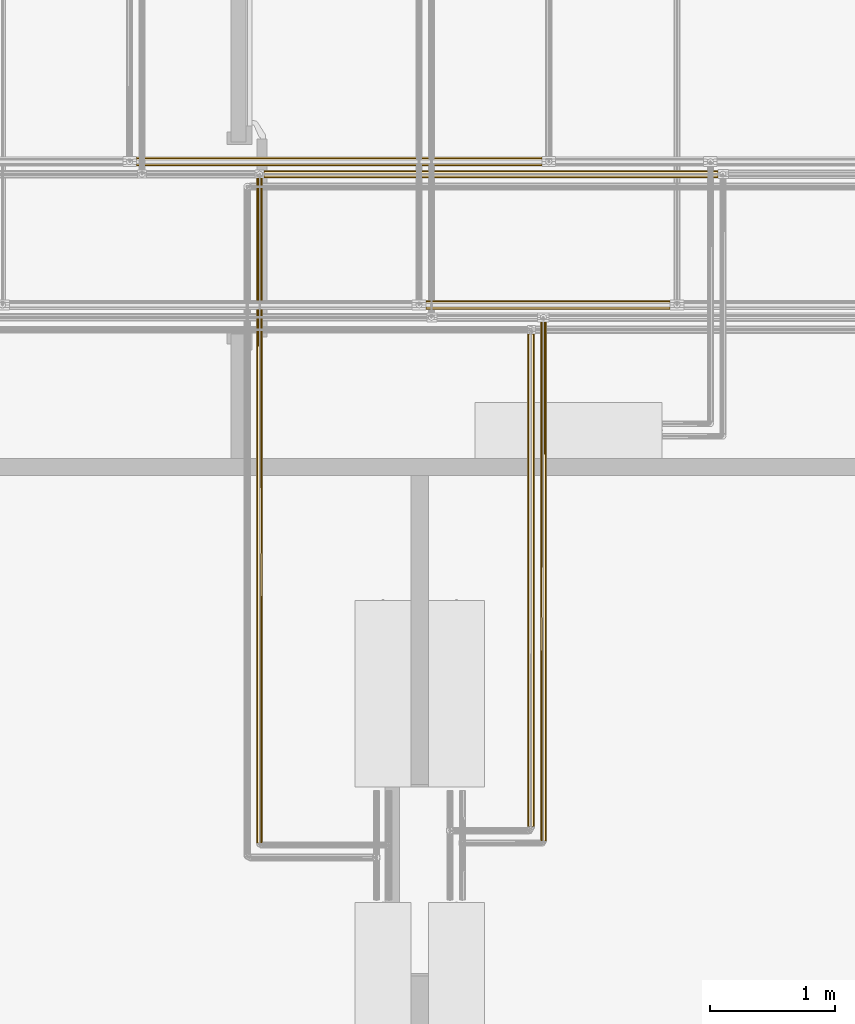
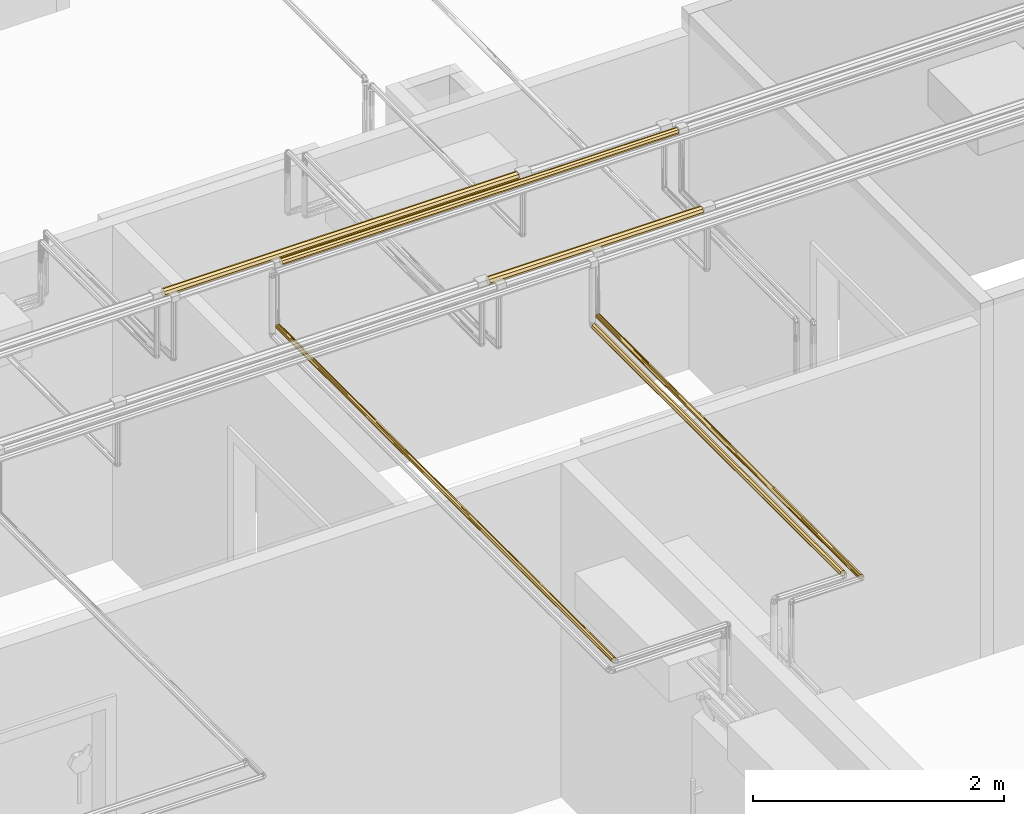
# One storey, part 92 of 652: 6 coverings.
"""IFC2X3 building model written with IfcOpenShell, lengths in millimetres."""

import ifcopenshell
import ifcopenshell.guid

model = None  # the IFC model being written
_history = None  # IfcOwnerHistory: only IFC2X3 demands one
_inside = {}  # id of a spatial element -> (the spatial element, [elements in it])
_under = {}  # id of a project, library or spatial element -> (it, [spatial elements below it])
_declared = {}  # id of a project -> (the project, [libraries it declares])
_typed = {}  # id of a type object -> (the type object, [elements of that type])
_made_of = {}  # id of a material, layer set ... -> (it, [elements and type objects made of it])


def new_model(schema):
    """Start an empty IFC model of exactly this schema.

    Asked for "IFC4X3", IfcOpenShell would pick the latest addendum, in which some entities
    have other attributes; the version numbers below select the first issue.
    IFC2X3 requires an IfcOwnerHistory on every rooted entity: one is made here for all.
    """
    global model, _history
    if schema == "IFC4X3":
        model = ifcopenshell.file(schema_version=(4, 3, 0, 0))
    else:
        model = ifcopenshell.file(schema=schema)
    _inside.clear()
    _under.clear()
    _declared.clear()
    _typed.clear()
    _made_of.clear()
    _history = None
    if model.schema == "IFC2X3":
        org = make("IfcOrganization", Name="unknown")
        user = make(
            "IfcPersonAndOrganization",
            ThePerson=make("IfcPerson", FamilyName="unknown"),
            TheOrganization=org,
        )
        app = make(
            "IfcApplication",
            ApplicationDeveloper=org,
            Version="unknown",
            ApplicationFullName="unknown",
            ApplicationIdentifier="unknown",
        )
        _history = make(
            "IfcOwnerHistory",
            OwningUser=user,
            OwningApplication=app,
            ChangeAction="ADDED",
            CreationDate=0,
        )
    return model


def make(cls, **values):
    """One entity of the class cls with the attributes given. An attribute that is None is left unset."""
    return model.create_entity(
        cls, **{name: value for name, value in values.items() if value is not None}
    )


def entity(cls, *values):
    """Any entity or typed value of the class cls, its attributes in the order of the schema. None: left unset."""
    e = model.create_entity(cls)
    for i, value in enumerate(values):
        if value is not None:
            e[i] = value
    return e


def rooted(cls, **values):
    """An entity with a GlobalId (a new one), such as an element, a storey or a relation."""
    return make(cls, GlobalId=ifcopenshell.guid.new(), OwnerHistory=_history, **values)


def si_unit(unit_type, name, prefix=None):
    """IfcSIUnit, for example si_unit("LENGTHUNIT", "METRE", prefix="MILLI")."""
    return make("IfcSIUnit", UnitType=unit_type, Prefix=prefix, Name=name)


def converted_unit(unit_type, name, factor, base, dimensions=None, offset=None):
    """IfcConversionBasedUnit, such as the inch: factor (a typed value) times the base unit."""
    return make(
        "IfcConversionBasedUnit"
        if offset is None
        else "IfcConversionBasedUnitWithOffset",
        ConversionOffset=offset,
        Dimensions=None
        if dimensions is None
        else entity("IfcDimensionalExponents", *dimensions),
        UnitType=unit_type,
        Name=name,
        ConversionFactor=make(
            "IfcMeasureWithUnit", ValueComponent=factor, UnitComponent=base
        ),
    )


def assignment(units):
    """IfcUnitAssignment: the units of a project."""
    return None if units is None else make("IfcUnitAssignment", Units=units)


def point(xyz):
    """IfcCartesianPoint."""
    return None if xyz is None else make("IfcCartesianPoint", Coordinates=xyz)


def direction(xyz):
    """IfcDirection."""
    return None if xyz is None else make("IfcDirection", DirectionRatios=xyz)


def frame(location, z_axis=None, x_axis=None):
    """IfcAxis2Placement3D, a coordinate frame: its origin and axes. An axis left out is left unset."""
    return make(
        "IfcAxis2Placement3D",
        Location=point(location),
        Axis=direction(z_axis),
        RefDirection=direction(x_axis),
    )


def origin():
    """The frame at (0, 0, 0) with its axes left unset."""
    return frame((0.0, 0.0, 0.0))


def place(relative_to, where):
    """IfcLocalPlacement: puts the frame where relative to a parent placement (None: the world)."""
    return make(
        "IfcLocalPlacement", PlacementRelTo=relative_to, RelativePlacement=where
    )


def context(
    kind, dimensions, precision=None, world=None, true_north=None, identifier=None
):
    """IfcGeometricRepresentationContext, for example the 3D "Model" context."""
    return make(
        "IfcGeometricRepresentationContext",
        ContextIdentifier=identifier,
        ContextType=kind,
        CoordinateSpaceDimension=dimensions,
        Precision=precision,
        WorldCoordinateSystem=world,
        TrueNorth=true_north,
    )


def subcontext(parent, identifier, kind, view, scale=None):
    """IfcGeometricRepresentationSubContext, for example "Body" below "Model"."""
    return make(
        "IfcGeometricRepresentationSubContext",
        ContextIdentifier=identifier,
        ContextType=kind,
        ParentContext=parent,
        TargetScale=scale,
        TargetView=view,
    )


def project(units=None, contexts=None):
    """IfcProject with its units and contexts."""
    return rooted(
        "IfcProject",
        Name="project",
        RepresentationContexts=contexts,
        UnitsInContext=assignment(units),
    )


def spatial(cls, under=None, at=None, **own):
    """A site, building, storey or space (cls), placed at a placement, below another one or the project."""
    s = rooted(cls, ObjectPlacement=at, **own)
    if under is not None:
        _under.setdefault(under.id(), (under, []))[1].append(s)
    return s


def faces_of(points, faces, orient=None, outer=None):
    """IfcFace entities. A face is a list of loops; a loop is a list of indices into points, from 0.

    orient and outer hold one flag for each loop. By default every Orientation is true, the
    first loop of a face is its IfcFaceOuterBound and the others are IfcFaceBound.
    """
    made = []
    for i, loops in enumerate(faces):
        bounds = []
        for j, loop in enumerate(loops):
            is_outer = j == 0 if outer is None else outer[i][j]
            bounds.append(
                make(
                    "IfcFaceOuterBound" if is_outer else "IfcFaceBound",
                    Bound=make("IfcPolyLoop", Polygon=[points[k] for k in loop]),
                    Orientation=True if orient is None else orient[i][j],
                )
            )
        made.append(make("IfcFace", Bounds=bounds))
    return made


def faceted_brep(points, faces, orient=None, outer=None, voids=None):
    """IfcFacetedBrep: a solid bounded by flat faces; with voids (closed shells), ...WithVoids."""
    shared = [point(p) for p in points]
    hull = make("IfcClosedShell", CfsFaces=faces_of(shared, faces, orient, outer))
    if voids is None:
        return make("IfcFacetedBrep", Outer=hull)
    return make(
        "IfcFacetedBrepWithVoids",
        Outer=hull,
        Voids=[
            make(cls, CfsFaces=faces_of(shared, fs, o, b)) for cls, fs, o, b in voids
        ],
    )


def shape(context_of_items, identifier, shape_type, items):
    """IfcShapeRepresentation: the items that make up one representation, for example the "Body"."""
    return make(
        "IfcShapeRepresentation",
        ContextOfItems=context_of_items,
        RepresentationIdentifier=identifier,
        RepresentationType=shape_type,
        Items=items,
    )


def material(Name=None, Category=None):
    """IfcMaterial."""
    return make("IfcMaterial", Name=Name, Category=Category)


def made_of(thing, what):
    """Note that an element or type object is made of a material, layer set ...; save() writes the relation."""
    if what is not None:
        _made_of.setdefault(what.id(), (what, []))[1].append(thing)
    return thing


def type_object(cls, material=None, **own):
    """A type object (cls), such as IfcWallType, which elements share."""
    return made_of(rooted(cls, **own), material)


def element(
    cls,
    number,
    at=None,
    inside=None,
    cuts=None,
    type_object=None,
    material=None,
    context=None,
    identifier="Body",
    shape_type=None,
    held_by="IfcProductDefinitionShape",
    body=None,
    shapes=None,
    **own,
):
    """One element of the class cls, such as IfcWall. Its Tag is "e" and its number.

    at: its placement. inside: the storey or other place that contains it. cuts: it is an
    opening in that element (IfcRelVoidsElement). A single representation is given by context,
    identifier, shape_type and body (its items); several are given by shapes. held_by: the class
    of the entity that holds the representations. save() writes the other relations.
    """
    e = rooted(cls, Tag="e%d" % number, ObjectPlacement=at, **own)
    if body is not None:
        shapes = [shape(context, identifier, shape_type, body)]
    if shapes is not None:
        e.Representation = make(held_by, Representations=shapes)
    if inside is not None:
        _inside.setdefault(inside.id(), (inside, []))[1].append(e)
    if cuts is not None:
        rooted(
            "IfcRelVoidsElement", RelatingBuildingElement=cuts, RelatedOpeningElement=e
        )
    if type_object is not None:
        _typed.setdefault(type_object.id(), (type_object, []))[1].append(e)
    return made_of(e, material)


def aggregate(whole, parts):
    """IfcRelAggregates: a whole, such as a stair, and the parts it consists of."""
    return rooted("IfcRelAggregates", RelatingObject=whole, RelatedObjects=parts)


def save(model, path):
    """Write the relations noted so far, then the file.

    IfcRelAggregates (storeys below a building ...), IfcRelContainedInSpatialStructure (elements
    in a storey), IfcRelDefinesByType, IfcRelAssociatesMaterial and IfcRelDeclares: one each for
    every whole, place, type object, material and project.
    """
    for whole, parts in _under.values():
        aggregate(whole, parts)
    for where, things in _inside.values():
        rooted(
            "IfcRelContainedInSpatialStructure",
            RelatedElements=things,
            RelatingStructure=where,
        )
    for kind, things in _typed.values():
        rooted("IfcRelDefinesByType", RelatedObjects=things, RelatingType=kind)
    for what, things in _made_of.values():
        rooted("IfcRelAssociatesMaterial", RelatedObjects=things, RelatingMaterial=what)
    for by, libraries in _declared.values():
        rooted("IfcRelDeclares", RelatingContext=by, RelatedDefinitions=libraries)
    model.write(path)


model = new_model("IFC2X3")

# Units and contexts
model_context = context("Model", 3, precision=0.01, world=frame((0.0, 0.0, 308426.39999999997)), true_north=direction((6.123233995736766e-17, 1.0)))
plan_context = context("Plan", 3, precision=0.01, world=frame((0.0, 0.0, 308426.39999999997)), true_north=direction((6.123233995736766e-17, 1.0)))
body_context = subcontext(model_context, "Body", "Model", "MODEL_VIEW")
ifc_project = project(units=[si_unit("LENGTHUNIT", "METRE", prefix="MILLI"), si_unit("AREAUNIT", "SQUARE_METRE"), si_unit("VOLUMEUNIT", "CUBIC_METRE"), converted_unit("PLANEANGLEUNIT", "DEGREE", entity("IfcPlaneAngleMeasure", 0.017453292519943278), si_unit("PLANEANGLEUNIT", "RADIAN"), dimensions=[0, 0, 0, 0, 0, 0, 0])], contexts=[model_context, plan_context])

# Site, building, storey
site_placement = place(None, origin())
site = spatial("IfcSite", under=ifc_project, at=site_placement, Name="Default", CompositionType="ELEMENT")
building_placement = place(site_placement, origin())
building = spatial("IfcBuilding", under=site, at=building_placement, CompositionType="ELEMENT")
storey_placement = place(building_placement, frame((0.0, 0.0, 1730.6999999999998)))
storey = spatial("IfcBuildingStorey", under=building, at=storey_placement, Name="EG_Produktion_FFB", CompositionType="ELEMENT", Elevation=1730.6999999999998)

# Coverings
ifc_material = material(Name="Dämmung - Armaflex-Schlauch")
covering_type = type_object("IfcCoveringType", Name="Rohrdämmung außen:Armaflex-Schlauch", PredefinedType="INSULATION")
covering_1_placement = place(storey_placement, frame((25847.048249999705, 60968.29222776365, 3868.292227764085)))
element("IfcCovering", 1, at=covering_1_placement, inside=storey, type_object=covering_type, material=ifc_material, Name="Rohrdämmung außen:Armaflex-Schlauch", ObjectType="Rohrdämmung außen:Armaflex-Schlauch", PredefinedType="INSULATION", context=body_context, shape_type="Brep", body=[
    faceted_brep([(3645.9035000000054, 61.82027223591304, 31.707772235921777), (3645.9035000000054, 60.17222629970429, 35.686507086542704), (3645.9035000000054, 57.410398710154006, 42.35414871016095), (3645.9035000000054, 55.20546194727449, 47.67733694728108), (3645.9035000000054, 53.000525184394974, 53.000525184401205), (3645.903500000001, 47.67733694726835, 55.20546194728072), (3645.9035000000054, 42.35414871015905, 57.41039871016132), (3645.9035000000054, 37.03096047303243, 59.61533547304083), (3645.9035000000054, 31.70777223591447, 61.82027223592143), (3645.9035000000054, 27.729037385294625, 60.17222629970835), (3645.9035000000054, 21.061395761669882, 57.41039871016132), (3645.90350000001, 15.738207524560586, 55.20546194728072), (3645.9035000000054, 10.415019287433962, 53.000525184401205), (3645.9035000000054, 8.210082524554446, 47.67733694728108), (3645.9035000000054, 6.005145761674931, 42.35414871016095), (3645.9035000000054, 3.8002089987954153, 37.0309604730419), (3645.9035000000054, 1.5952722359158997, 31.707772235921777), (3645.9035000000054, 3.8002089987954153, 26.384583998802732), (3645.9035000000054, 6.005145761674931, 21.061395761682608), (3645.9035000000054, 8.210082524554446, 15.73820752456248), (3645.9035000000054, 10.415019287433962, 10.415019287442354), (3645.903500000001, 15.738207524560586, 8.210082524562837), (3645.903500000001, 21.061395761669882, 6.005145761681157), (3645.903500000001, 26.384583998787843, 3.800208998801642), (3645.9035000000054, 31.70777223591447, 1.5952722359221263), (3645.9035000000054, 35.686507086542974, 3.2433181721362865), (3645.9035000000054, 42.35414871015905, 6.00514576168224), (3645.9035000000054, 47.67733694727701, 8.210082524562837), (3645.9035000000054, 53.000525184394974, 10.415019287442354), (3645.903500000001, 55.20546194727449, 15.73820752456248), (3645.9035000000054, 57.410398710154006, 21.061395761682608), (3645.9035000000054, 59.61533547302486, 26.384583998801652), (0.0, 47.67733694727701, 8.210082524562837), (0.0, 42.35414871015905, 6.005145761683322), (0.0, 37.03096047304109, 3.8002089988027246), (0.0, 31.70777223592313, 1.5952722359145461), (0.0, 23.75030253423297, 4.89136410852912), (0.0, 17.08266091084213, 7.6531916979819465), (0.0, 10.415019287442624, 10.415019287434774), (0.0, 8.210082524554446, 15.738207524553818), (0.0, 6.005145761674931, 21.061395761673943), (0.0, 3.800208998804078, 26.38458399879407), (0.0, 1.5952722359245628, 31.7077722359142), (0.0, 4.891364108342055, 39.6652419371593), (0.0, 7.653191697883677, 46.33288356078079), (0.0, 10.415019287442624, 53.000525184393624), (0.0, 15.738207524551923, 55.2054619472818), (0.0, 21.061395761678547, 57.4103987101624), (0.0, 26.384583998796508, 59.61533547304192), (0.0, 31.70777223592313, 61.82027223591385), (0.0, 39.66524193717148, 58.524180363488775), (0.0, 46.332883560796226, 55.762352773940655), (0.0, 53.000525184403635, 53.000525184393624), (0.0, 55.205461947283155, 47.677336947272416), (0.0, 57.410398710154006, 42.35414871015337), (0.0, 59.615335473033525, 37.03096047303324), (0.0, 61.8202722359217, 31.7077722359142), (0.0, 58.52418036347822, 23.750302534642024), (0.0, 55.7623527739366, 17.08266091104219), (0.0, 53.000525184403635, 10.415019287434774)], [[[0, 1, 2, 3, 4, 5, 6, 7, 8, 9, 10, 11, 12, 13, 14, 15, 16, 17, 18, 19, 20, 21, 22, 23, 24, 25, 26, 27, 28, 29, 30, 31]], [[32, 33, 34, 35, 36, 37, 38, 39, 40, 41, 42, 43, 44, 45, 46, 47, 48, 49, 50, 51, 52, 53, 54, 55, 56, 57, 58, 59]], [[40, 39, 38, 20, 19, 18, 17, 16, 42, 41]], [[36, 35, 24, 23, 22, 21, 20, 38, 37]], [[33, 32, 59, 28, 27, 26, 25, 24, 35, 34]], [[28, 59, 58, 57, 56, 0, 31, 30, 29]], [[54, 53, 52, 4, 3, 2, 1, 0, 56, 55]], [[4, 52, 51, 50, 49, 8, 7, 6, 5]], [[47, 46, 45, 12, 11, 10, 9, 8, 49, 48]], [[12, 45, 44, 43, 42, 16, 15, 14, 13]]]),
])
covering_2_placement = place(storey_placement, frame((27144.44724999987, 59911.942227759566, 3861.942227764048)))
element("IfcCovering", 2, at=covering_2_placement, inside=storey, type_object=covering_type, material=ifc_material, Name="Rohrdämmung außen:Armaflex-Schlauch", ObjectType="Rohrdämmung außen:Armaflex-Schlauch", PredefinedType="INSULATION", context=body_context, shape_type="Brep", body=[
    faceted_brep([(0.0, 1.5952722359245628, 38.057772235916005), (0.0, 3.6344705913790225, 42.980832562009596), (0.0, 6.935081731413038, 50.949212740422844), (0.0, 9.604986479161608, 57.3949329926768), (0.0, 12.274891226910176, 63.84065324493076), (0.0, 18.72061147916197, 66.51055799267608), (0.0, 25.166331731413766, 69.18046274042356), (0.0, 31.612051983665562, 71.85036748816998), (0.0, 38.057772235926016, 74.52027223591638), (0.0, 42.98083256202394, 72.48107388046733), (0.0, 50.94921274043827, 69.18046274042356), (0.0, 57.394932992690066, 66.51055799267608), (0.0, 63.84065324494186, 63.84065324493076), (0.0, 66.51055799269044, 57.3949329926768), (0.0, 69.180462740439, 50.949212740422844), (0.0, 71.8503674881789, 44.50349248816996), (0.0, 74.52027223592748, 38.057772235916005), (0.0, 71.85036748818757, 31.612051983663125), (0.0, 69.180462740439, 25.166331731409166), (0.0, 66.51055799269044, 18.720611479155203), (0.0, 63.84065324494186, 12.274891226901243), (0.0, 57.394932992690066, 9.604986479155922), (0.0, 50.94921274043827, 6.935081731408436), (0.0, 44.503492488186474, 4.265176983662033), (0.0, 38.057772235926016, 1.595272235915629), (0.0, 33.13471190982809, 3.6344705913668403), (0.0, 25.166331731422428, 6.935081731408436), (0.0, 18.720611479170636, 9.604986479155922), (0.0, 12.274891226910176, 12.274891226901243), (0.0, 9.604986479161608, 18.720611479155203), (0.0, 6.935081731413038, 25.166331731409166), (0.0, 4.265176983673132, 31.612051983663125), (1963.0639967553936, 18.720611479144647, 9.60498647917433), (1963.0639967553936, 25.166331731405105, 6.93508173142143), (1963.0639967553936, 31.612051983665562, 4.26517698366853), (1963.0639967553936, 38.057772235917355, 1.5952722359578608), (1963.0639967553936, 47.903892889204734, 5.673668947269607), (1963.0639967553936, 55.87227306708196, 8.974280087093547), (1963.0639967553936, 63.8406532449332, 12.274891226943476), (1963.0639967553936, 66.51055799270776, 18.720611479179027), (1963.0639967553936, 69.180462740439, 25.1663317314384), (1963.0639967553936, 71.85036748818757, 31.61205198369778), (1963.0639967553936, 74.52027223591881, 38.05777223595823), (1963.0639967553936, 70.44187552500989, 47.90389288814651), (1963.0639967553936, 67.14126438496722, 55.87227306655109), (1963.0639967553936, 63.8406532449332, 63.84065324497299), (1963.0639967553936, 57.39493299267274, 66.51055799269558), (1963.0639967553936, 50.94921274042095, 69.18046274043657), (1963.0639967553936, 44.50349248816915, 71.85036748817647), (1963.0639967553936, 38.057772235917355, 74.52027223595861), (1963.0639967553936, 28.211651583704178, 70.44187552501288), (1963.0639967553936, 20.24327140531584, 67.14126438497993), (1963.0639967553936, 12.274891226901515, 63.84065324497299), (1963.0639967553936, 9.604986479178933, 57.394932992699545), (1963.0639967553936, 6.9350817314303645, 50.94921274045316), (1963.0639967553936, 4.265176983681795, 44.5034924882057), (1963.0639967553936, 1.5952722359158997, 38.05777223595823), (1963.0639967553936, 5.673668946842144, 28.211651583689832), (1963.0639967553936, 8.974280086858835, 20.243271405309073), (1963.0639967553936, 12.274891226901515, 12.274891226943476)], [[[0, 1, 2, 3, 4, 5, 6, 7, 8, 9, 10, 11, 12, 13, 14, 15, 16, 17, 18, 19, 20, 21, 22, 23, 24, 25, 26, 27, 28, 29, 30, 31]], [[32, 33, 34, 35, 36, 37, 38, 39, 40, 41, 42, 43, 44, 45, 46, 47, 48, 49, 50, 51, 52, 53, 54, 55, 56, 57, 58, 59]], [[40, 39, 38, 20, 19, 18, 17, 16, 42, 41]], [[36, 35, 24, 23, 22, 21, 20, 38, 37]], [[33, 32, 59, 28, 27, 26, 25, 24, 35, 34]], [[28, 59, 58, 57, 56, 0, 31, 30, 29]], [[54, 53, 52, 4, 3, 2, 1, 0, 56, 55]], [[4, 52, 51, 50, 49, 8, 7, 6, 5]], [[47, 46, 45, 12, 11, 10, 9, 8, 49, 48]], [[12, 45, 44, 43, 42, 16, 15, 14, 13]]]),
])
covering_3_placement = place(storey_placement, frame((24820.23582776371, 61061.942227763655, 3861.9422277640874)))
element("IfcCovering", 3, at=covering_3_placement, inside=storey, type_object=covering_type, material=ifc_material, Name="Rohrdämmung außen:Armaflex-Schlauch", ObjectType="Rohrdämmung außen:Armaflex-Schlauch", PredefinedType="INSULATION", context=body_context, shape_type="Brep", body=[
    faceted_brep([(3257.6293553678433, 74.52027223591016, 38.057772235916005), (3257.6293553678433, 72.06260966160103, 43.991094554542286), (3257.6293553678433, 69.18046274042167, 50.949212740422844), (3257.6293553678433, 66.5105579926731, 57.3949329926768), (3257.6293553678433, 63.84065324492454, 63.84065324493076), (3257.6293553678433, 57.39493299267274, 66.51055799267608), (3257.6293553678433, 50.94921274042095, 69.18046274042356), (3257.6293553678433, 44.50349248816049, 71.85036748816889), (3257.6293553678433, 38.05777223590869, 74.52027223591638), (3257.6293553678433, 32.12444991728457, 72.06260966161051), (3257.6293553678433, 25.16633173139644, 69.18046274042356), (3257.6293553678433, 18.720611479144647, 66.51055799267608), (3257.6293553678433, 12.274891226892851, 63.84065324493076), (3257.6293553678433, 9.604986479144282, 57.39493299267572), (3257.6293553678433, 6.935081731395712, 50.949212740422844), (3257.6293553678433, 4.265176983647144, 44.50349248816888), (3257.6293553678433, 1.5952722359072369, 38.057772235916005), (3257.6293553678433, 4.265176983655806, 31.612051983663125), (3257.6293553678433, 6.935081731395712, 25.166331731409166), (3257.6293553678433, 9.604986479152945, 18.720611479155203), (3257.6293553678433, 12.274891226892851, 12.274891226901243), (3257.6293553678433, 18.720611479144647, 9.60498647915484), (3257.6293553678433, 25.16633173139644, 6.935081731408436), (3257.6293553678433, 31.612051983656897, 4.265176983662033), (3257.6293553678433, 38.05777223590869, 1.595272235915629), (3257.6293553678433, 43.991094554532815, 4.052934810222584), (3257.6293553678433, 50.94921274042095, 6.935081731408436), (3257.6293553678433, 57.39493299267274, 9.604986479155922), (3257.6293553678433, 63.84065324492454, 12.274891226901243), (3257.6293553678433, 66.5105579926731, 18.720611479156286), (3257.6293553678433, 69.18046274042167, 25.166331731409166), (3257.6293553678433, 71.85036748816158, 31.61205198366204), (0.0, 57.394932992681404, 9.604986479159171), (0.0, 50.94921274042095, 6.935081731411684), (0.0, 44.50349248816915, 4.265176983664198), (0.0, 38.057772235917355, 1.5952722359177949), (0.0, 32.12444991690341, 4.0529348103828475), (0.0, 26.19112759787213, 6.510597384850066), (0.0, 19.23300941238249, 9.392744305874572), (0.0, 12.274891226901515, 12.274891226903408), (0.0, 9.604986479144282, 18.720611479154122), (0.0, 6.935081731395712, 25.166331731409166), (0.0, 4.265176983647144, 31.612051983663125), (0.0, 1.5952722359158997, 38.057772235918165), (0.0, 4.052934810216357, 43.99109455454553), (0.0, 6.510597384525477, 49.92441687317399), (0.0, 9.392744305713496, 56.88253505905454), (0.0, 12.274891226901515, 63.84065324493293), (0.0, 18.72061147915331, 66.51055799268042), (0.0, 25.166331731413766, 69.18046274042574), (0.0, 31.612051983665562, 71.85036748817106), (0.0, 38.057772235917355, 74.52027223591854), (0.0, 43.99109455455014, 72.06260966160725), (0.0, 49.92441687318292, 69.60494708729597), (0.0, 56.88253505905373, 66.7228001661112), (0.0, 63.8406532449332, 63.84065324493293), (0.0, 66.5105579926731, 57.39493299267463), (0.0, 69.18046274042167, 50.949212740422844), (0.0, 71.85036748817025, 44.50349248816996), (0.0, 74.52027223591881, 38.057772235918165), (0.0, 72.06260966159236, 32.12444991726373), (0.0, 69.60494708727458, 26.19112759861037), (0.0, 66.7228001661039, 19.233009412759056), (0.0, 63.8406532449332, 12.274891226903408)], [[[0, 1, 2, 3, 4, 5, 6, 7, 8, 9, 10, 11, 12, 13, 14, 15, 16, 17, 18, 19, 20, 21, 22, 23, 24, 25, 26, 27, 28, 29, 30, 31]], [[32, 33, 34, 35, 36, 37, 38, 39, 40, 41, 42, 43, 44, 45, 46, 47, 48, 49, 50, 51, 52, 53, 54, 55, 56, 57, 58, 59, 60, 61, 62, 63]], [[41, 40, 39, 20, 19, 18, 17, 16, 43, 42]], [[37, 36, 35, 24, 23, 22, 21, 20, 39, 38]], [[25, 24, 35, 34, 33, 32, 63, 28, 27, 26]], [[28, 63, 62, 61, 60, 59, 0, 31, 30, 29]], [[1, 0, 59, 58, 57, 56, 55, 4, 3, 2]], [[4, 55, 54, 53, 52, 51, 8, 7, 6, 5]], [[9, 8, 51, 50, 49, 48, 47, 12, 11, 10]], [[12, 47, 46, 45, 44, 43, 16, 15, 14, 13]]]),
])
covering_4_placement = place(storey_placement, frame((28063.32054968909, 55644.2608183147, 3274.642227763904)))
element("IfcCovering", 4, at=covering_4_placement, inside=storey, type_object=covering_type, material=ifc_material, Name="Rohrdämmung außen:Armaflex-Schlauch", ObjectType="Rohrdämmung außen:Armaflex-Schlauch", PredefinedType="INSULATION", context=body_context, shape_type="Brep", body=[
    faceted_brep([(42.160397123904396, 1.5952722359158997, 42.16039712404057), (37.95974090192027, 1.5952722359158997, 43.90036590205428), (33.75908467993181, 1.5952722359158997, 45.64033468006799), (29.558428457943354, 1.5952722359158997, 47.3803034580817), (25.357772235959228, 1.5952722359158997, 49.12027223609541), (20.423230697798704, 1.5952722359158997, 48.04709335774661), (15.488689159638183, 1.5952722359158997, 46.973914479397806), (11.448105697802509, 1.5952722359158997, 43.95116498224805), (7.407522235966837, 1.5952722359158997, 40.92841548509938), (7.407522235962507, 1.5952722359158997, 9.787128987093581), (11.448105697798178, 1.5952722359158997, 6.764379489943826), (15.488689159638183, 1.5952722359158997, 3.7416299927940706), (20.423230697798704, 1.5952722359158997, 2.6684511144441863), (25.357772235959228, 1.5952722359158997, 1.595272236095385), (30.216010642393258, 1.5952722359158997, 3.60762047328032), (33.75908467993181, 1.5952722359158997, 5.075209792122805), (37.95974090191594, 1.5952722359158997, 6.815178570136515), (42.160397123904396, 1.5952722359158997, 8.555147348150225), (43.900365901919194, 1.5952722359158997, 12.755803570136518), (45.64033467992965, 1.5952722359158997, 16.95645979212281), (47.38030345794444, 1.5952722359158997, 21.157116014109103), (49.12027223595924, 1.5952722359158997, 25.357772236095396), (47.38030345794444, 1.5952722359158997, 29.55842845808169), (45.64033467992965, 1.5952722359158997, 33.759084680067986), (43.90036590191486, 1.5952722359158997, 37.95974090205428), (8.55514734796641, 4187.788931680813, 8.55514734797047), (6.815178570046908, 4187.788931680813, 12.755803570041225), (5.075209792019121, 4187.788931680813, 16.956459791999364), (3.3352410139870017, 4187.788931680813, 21.157116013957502), (1.5952722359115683, 4187.788931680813, 25.35777223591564), (2.6684511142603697, 4187.788931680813, 30.292313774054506), (3.741629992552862, 4187.788931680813, 35.22685531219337), (6.764379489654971, 4187.788931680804, 39.26743877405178), (9.787128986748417, 4187.788931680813, 43.30802223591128), (40.928415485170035, 4187.788931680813, 43.30802223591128), (43.951164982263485, 4187.788931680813, 39.26743877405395), (46.97391447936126, 4187.788931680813, 35.22685531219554), (48.047093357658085, 4187.788931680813, 30.29231377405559), (49.12027223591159, 4187.788931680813, 25.35777223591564), (47.107923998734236, 4187.788931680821, 20.49953382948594), (45.09557576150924, 4187.788931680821, 15.64129542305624), (42.160397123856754, 4187.788931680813, 8.55514734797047), (37.959740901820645, 4187.788931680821, 6.815178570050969), (33.75908467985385, 4187.788931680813, 5.075209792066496), (29.55842845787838, 4187.788931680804, 3.3352410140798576), (25.35777223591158, 4187.788931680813, 1.595272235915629), (20.499533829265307, 4187.788931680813, 3.6076204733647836), (16.956459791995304, 4187.788931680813, 5.075209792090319), (12.755803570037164, 4187.788931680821, 6.815178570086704), (2.3454889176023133, 6.657305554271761, 21.202751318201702), (1.5952722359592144, 7.407522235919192, 25.357772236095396), (3.0957055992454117, 5.907088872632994, 17.047730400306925), (5.251613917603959, 3.751180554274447, 13.417429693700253), (33.6678140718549, 4183.477115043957, 47.619838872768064), (37.29811477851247, 4185.633023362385, 45.463930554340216), (29.51279315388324, 4182.726898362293, 48.37005555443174), (25.35777223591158, 4181.976681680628, 49.12027223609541), (13.417429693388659, 4185.633023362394, 45.46393055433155), (17.04773040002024, 4183.477115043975, 47.61983887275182), (20.07568798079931, 4182.930397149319, 48.166556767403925), (2.3454889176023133, 6.657305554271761, 29.512793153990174), (3.0957055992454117, 5.907088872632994, 33.66781407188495), (5.251613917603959, 3.751180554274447, 37.2981147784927)], [[[0, 1, 2, 3, 4, 5, 6, 7, 8, 9, 10, 11, 12, 13, 14, 15, 16, 17, 18, 19, 20, 21, 22, 23, 24]], [[25, 26, 27, 28, 29, 30, 31, 32, 33, 34, 35, 36, 37, 38, 39, 40, 41, 42, 43, 44, 45, 46, 47, 48]], [[25, 10, 9]], [[29, 49, 50]], [[49, 29, 28]], [[51, 27, 52]], [[12, 47, 46, 45]], [[10, 25, 48]], [[47, 12, 11]], [[9, 52, 26]], [[28, 51, 49]], [[27, 51, 28]], [[48, 11, 10]], [[9, 26, 25]], [[48, 47, 11]], [[45, 13, 12]], [[52, 27, 26]], [[38, 21, 20, 19, 18, 17, 41, 40, 39]], [[16, 15, 14, 13, 45, 44, 43, 42, 41, 17]], [[38, 22, 21]], [[2, 53, 3]], [[22, 38, 37]], [[37, 23, 22]], [[34, 0, 35]], [[1, 34, 54]], [[54, 53, 2]], [[55, 56, 4]], [[36, 35, 24]], [[35, 0, 24]], [[36, 24, 23]], [[3, 53, 55]], [[0, 34, 1]], [[37, 36, 23]], [[54, 2, 1]], [[55, 4, 3]], [[57, 33, 7]], [[58, 5, 56, 59]], [[5, 58, 6]], [[56, 5, 4]], [[57, 7, 6]], [[29, 50, 60]], [[30, 61, 31]], [[6, 58, 57]], [[62, 8, 32]], [[60, 61, 30]], [[31, 61, 62]], [[33, 8, 7]], [[31, 62, 32]], [[8, 33, 32]], [[29, 60, 30]], [[51, 52, 9, 8, 62, 61, 60, 50, 49]], [[34, 33, 57, 58, 59, 56, 55, 53, 54]]]),
])
covering_5_placement = place(storey_placement, frame((25784.642227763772, 55628.229568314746, 3274.6422277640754)))
element("IfcCovering", 5, at=covering_5_placement, inside=storey, type_object=covering_type, material=ifc_material, Name="Rohrdämmung außen:Armaflex-Schlauch", ObjectType="Rohrdämmung außen:Armaflex-Schlauch", PredefinedType="INSULATION", context=body_context, shape_type="Brep", body=[
    faceted_brep([(35.22685531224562, 1.5952722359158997, 3.7416299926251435), (39.267438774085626, 1.5952722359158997, 6.7643794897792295), (43.30802223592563, 1.5952722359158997, 9.787128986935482), (43.30802223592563, 1.5952722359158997, 40.928415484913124), (39.267438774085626, 1.5952722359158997, 43.9511649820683), (35.22685531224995, 1.5952722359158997, 46.97391447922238), (30.2923137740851, 1.5952722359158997, 48.04709335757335), (25.357772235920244, 1.5952722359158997, 49.12027223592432), (21.157116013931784, 1.5952722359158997, 47.38030345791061), (16.95645979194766, 1.5952722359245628, 45.640334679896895), (12.75580356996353, 1.5952722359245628, 43.900365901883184), (8.55514734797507, 1.5952722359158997, 42.16039712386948), (6.8151785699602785, 1.5952722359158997, 37.95974090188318), (5.075209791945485, 1.5952722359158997, 33.75908467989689), (3.1692119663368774, 1.5952722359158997, 29.15759887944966), (1.5952722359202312, 1.5952722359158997, 25.357772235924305), (3.335241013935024, 1.5952722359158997, 21.157116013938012), (5.075209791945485, 1.5952722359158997, 16.95645979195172), (6.8151785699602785, 1.5952722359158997, 12.755803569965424), (8.55514734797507, 1.5952722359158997, 8.555147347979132), (12.755803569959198, 1.5952722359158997, 6.815178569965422), (16.95645979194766, 1.5952722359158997, 5.075209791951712), (21.157116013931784, 1.5952722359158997, 3.335241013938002), (25.357772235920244, 1.5952722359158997, 1.595272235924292), (30.2923137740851, 1.5952722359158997, 2.6684511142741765), (42.16039712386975, 5353.8201816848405, 8.55514734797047), (37.95974090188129, 5353.8201816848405, 6.815178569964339), (33.759084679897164, 5353.8201816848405, 5.07520979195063), (29.558428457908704, 5353.8201816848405, 3.335241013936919), (25.357772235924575, 5353.8201816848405, 1.595272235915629), (21.557945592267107, 5353.8201816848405, 3.1692119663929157), (17.75811894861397, 5353.8201816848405, 4.743151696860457), (13.156633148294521, 5353.82018168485, 6.649149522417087), (8.555147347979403, 5353.8201816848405, 8.55514734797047), (6.81517856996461, 5353.8201816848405, 12.755803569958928), (5.075209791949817, 5353.8201816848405, 16.956459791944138), (3.335241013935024, 5353.8201816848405, 21.157116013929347), (1.5952722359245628, 5353.8201816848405, 25.35777223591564), (2.6684511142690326, 5353.8201816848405, 30.292313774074), (3.7416299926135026, 5353.8201816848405, 35.22685531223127), (6.764379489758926, 5353.820181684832, 39.26743877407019), (9.787128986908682, 5353.8201816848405, 43.30802223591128), (40.92841548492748, 5353.8201816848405, 43.30802223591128), (43.95116498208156, 5353.8201816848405, 39.26743877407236), (46.973914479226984, 5353.8201816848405, 35.22685531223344), (48.047093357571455, 5353.8201816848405, 30.292313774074), (49.12027223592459, 5353.8201816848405, 25.35777223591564), (47.38030345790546, 5353.82018168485, 21.157116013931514), (45.640334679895, 5353.8201816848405, 16.956459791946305), (43.90036590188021, 5353.8201816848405, 12.755803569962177), (48.37005555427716, 6.657305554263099, 21.202751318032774), (45.46393055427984, 3.751180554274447, 13.417429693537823), (47.619838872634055, 5.907088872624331, 17.04773040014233), (49.120272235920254, 7.407522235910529, 25.357772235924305), (48.37005555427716, 6.657305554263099, 29.51279315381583), (47.619838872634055, 5.907088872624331, 33.667814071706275), (45.46393055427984, 3.751180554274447, 37.29811477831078), (37.29811477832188, 5351.664273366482, 45.46393055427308), (29.5127931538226, 5348.758148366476, 48.370055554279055), (25.357772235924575, 5348.007931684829, 49.12027223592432), (33.66781407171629, 5349.508365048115, 47.619838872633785), (21.20275131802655, 5348.758148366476, 48.370055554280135), (17.047730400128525, 5349.508365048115, 47.61983887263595), (13.417429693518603, 5351.664273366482, 45.46393055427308)], [[[0, 1, 2, 3, 4, 5, 6, 7, 8, 9, 10, 11, 12, 13, 14, 15, 16, 17, 18, 19, 20, 21, 22, 23, 24]], [[25, 26, 27, 28, 29, 30, 31, 32, 33, 34, 35, 36, 37, 38, 39, 40, 41, 42, 43, 44, 45, 46, 47, 48, 49]], [[35, 34, 33, 19, 18, 17, 16, 15, 37, 36]], [[31, 30, 29, 23, 22, 21, 20, 19, 33, 32]], [[1, 26, 25]], [[29, 28, 23]], [[27, 0, 24]], [[27, 26, 0]], [[46, 50, 47]], [[2, 49, 51]], [[52, 48, 47]], [[24, 28, 27]], [[48, 52, 51]], [[0, 26, 1]], [[50, 52, 47]], [[23, 28, 24]], [[25, 2, 1]], [[53, 50, 46]], [[49, 2, 25]], [[49, 48, 51]], [[54, 53, 46]], [[45, 55, 54]], [[56, 43, 3]], [[4, 57, 5]], [[56, 55, 44]], [[57, 4, 42]], [[58, 7, 6]], [[44, 55, 45]], [[58, 59, 7]], [[54, 46, 45]], [[43, 56, 44]], [[5, 60, 6]], [[43, 42, 3]], [[6, 60, 58]], [[4, 3, 42]], [[57, 60, 5]], [[59, 61, 7]], [[38, 37, 14]], [[8, 61, 62]], [[39, 12, 40]], [[63, 9, 62]], [[11, 41, 40]], [[39, 38, 13]], [[13, 38, 14]], [[7, 61, 8]], [[40, 12, 11]], [[37, 15, 14]], [[39, 13, 12]], [[9, 63, 10]], [[41, 10, 63]], [[8, 62, 9]], [[10, 41, 11]], [[3, 2, 51, 52, 50, 53, 54, 55, 56]], [[42, 41, 63, 62, 61, 59, 58, 60, 57]]]),
])
covering_6_placement = place(storey_placement, frame((27960.14554968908, 55759.88959055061, 3271.467227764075)))
element("IfcCovering", 6, at=covering_6_placement, inside=storey, type_object=covering_type, material=ifc_material, Name="Rohrdämmung außen:Armaflex-Schlauch", ObjectType="Rohrdämmung außen:Armaflex-Schlauch", PredefinedType="INSULATION", context=body_context, shape_type="Brep", body=[
    faceted_brep([(9.485083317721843, 0.0, 47.5804611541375), (7.512630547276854, 0.0, 42.818538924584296), (5.540177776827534, 0.0, 38.05661669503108), (3.567725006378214, 0.0, 33.294694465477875), (1.5952722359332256, 0.0, 28.532772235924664), (3.567725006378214, 0.0, 23.770850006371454), (5.540177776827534, 0.0, 19.008927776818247), (7.512630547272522, 0.0, 14.247005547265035), (9.485083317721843, 0.0, 9.485083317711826), (14.247005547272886, 0.0, 7.5126305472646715), (19.008927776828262, 0.0, 5.540177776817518), (23.770850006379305, 0.0, 3.5677250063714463), (28.532772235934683, 0.0, 1.595272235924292), (34.73440702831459, 0.0, 4.164073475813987), (38.0566166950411, 0.0, 5.540177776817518), (42.81853892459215, 0.0, 7.5126305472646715), (47.58046115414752, 0.0, 9.485083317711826), (49.552913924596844, 0.0, 14.247005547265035), (51.5253666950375, 0.0, 19.008927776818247), (53.49781946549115, 0.0, 23.770850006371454), (55.470272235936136, 0.0, 28.532772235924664), (52.90147099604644, 0.0, 34.734407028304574), (51.52536669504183, 0.0, 38.05661669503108), (49.552913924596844, 0.0, 42.818538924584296), (47.58046115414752, 0.0, 47.5804611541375), (42.818538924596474, 0.0, 49.55291392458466), (38.05661669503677, 0.0, 51.52536669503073), (33.29469446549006, 0.0, 53.49781946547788), (28.532772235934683, 0.0, 55.47027223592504), (22.3311374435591, 0.0, 52.90147099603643), (19.008927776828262, 0.0, 51.52536669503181), (14.247005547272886, 0.0, 49.55291392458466), (47.580461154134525, 3958.126659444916, 9.485083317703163), (42.818538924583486, 3958.126659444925, 7.512630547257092), (38.056616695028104, 3958.126659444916, 5.540177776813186), (33.29469446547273, 3958.126659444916, 3.5677250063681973), (28.532772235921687, 3958.126659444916, 1.595272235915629), (22.33113744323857, 3958.126659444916, 4.164073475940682), (16.12950265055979, 3958.126659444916, 6.732874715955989), (9.485083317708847, 3958.126659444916, 9.485083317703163), (7.512630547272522, 3958.126659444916, 14.247005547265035), (5.540177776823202, 3958.1266594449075, 19.008927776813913), (3.567725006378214, 3958.126659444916, 23.77085000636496), (1.5952722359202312, 3958.126659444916, 28.532772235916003), (4.16407347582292, 3958.126659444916, 34.73440702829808), (6.732874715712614, 3958.126659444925, 40.93604182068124), (9.485083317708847, 3958.126659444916, 47.58046115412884), (14.247005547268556, 3958.126659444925, 49.552913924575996), (19.008927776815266, 3958.126659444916, 51.52536669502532), (23.770850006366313, 3958.126659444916, 53.49781946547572), (28.532772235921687, 3958.126659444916, 55.470272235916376), (34.73440702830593, 3958.126659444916, 52.90147099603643), (40.936041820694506, 3958.126659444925, 50.332669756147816), (47.580461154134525, 3958.126659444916, 47.58046115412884), (49.552913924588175, 3958.126659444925, 42.818538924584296), (51.5253666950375, 3958.126659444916, 38.056616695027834), (53.49781946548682, 3958.126659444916, 33.29469446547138), (55.47027223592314, 3958.126659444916, 28.532772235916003), (52.901470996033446, 3958.1266594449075, 22.3311374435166), (50.33266975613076, 3958.1266594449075, 16.129502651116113)], [[[0, 1, 2, 3, 4, 5, 6, 7, 8, 9, 10, 11, 12, 13, 14, 15, 16, 17, 18, 19, 20, 21, 22, 23, 24, 25, 26, 27, 28, 29, 30, 31]], [[32, 33, 34, 35, 36, 37, 38, 39, 40, 41, 42, 43, 44, 45, 46, 47, 48, 49, 50, 51, 52, 53, 54, 55, 56, 57, 58, 59]], [[41, 40, 39, 8, 7, 6, 5, 4, 43, 42]], [[39, 38, 37, 36, 12, 11, 10, 9, 8]], [[18, 17, 16, 32, 59, 58, 57, 20, 19]], [[15, 14, 13, 12, 36, 35, 34, 33, 32, 16]], [[26, 25, 24, 53, 52, 51, 50, 28, 27]], [[23, 22, 21, 20, 57, 56, 55, 54, 53, 24]], [[2, 1, 0, 46, 45, 44, 43, 4, 3]], [[31, 30, 29, 28, 50, 49, 48, 47, 46, 0]]]),
])

save(model, "model.ifc")
